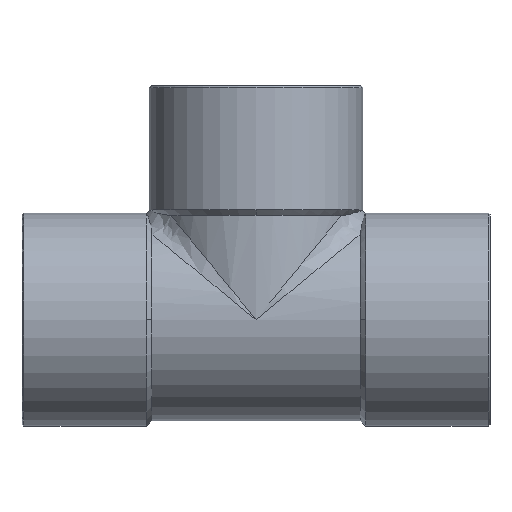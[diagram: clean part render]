
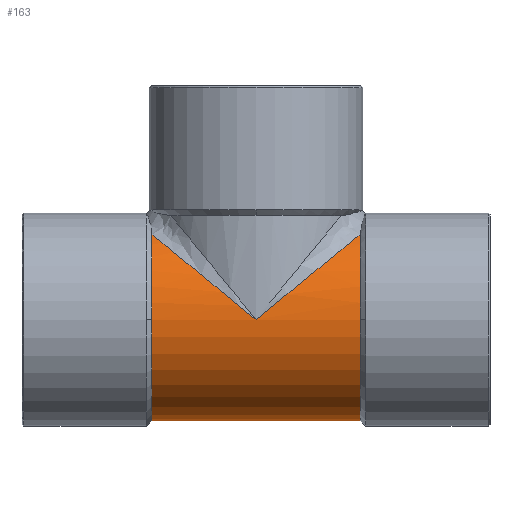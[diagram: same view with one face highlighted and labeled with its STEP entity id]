
A CAD part, top view. The second image highlights one B-rep face of the part: STEP entity #163.
In plain terms, the highlighted cylindrical face has radius 27 mm (diameter 54 mm), a partial arc.
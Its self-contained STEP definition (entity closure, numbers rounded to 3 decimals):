
#77=CARTESIAN_POINT('',(27.8,0.,27.));
#78=VERTEX_POINT('',#77);
#85=CARTESIAN_POINT('',(27.8,-27.,0.));
#86=VERTEX_POINT('',#85);
#87=CARTESIAN_POINT('',(27.8,0.,0.0));
#88=DIRECTION('',(-1.0,0.0,0.0));
#89=DIRECTION('',(0.0,1.0,0.0));
#90=AXIS2_PLACEMENT_3D('',#87,#88,#89);
#91=CIRCLE('',#90,27.);
#92=EDGE_CURVE('',#86,#78,#91,.T.);
#104=CARTESIAN_POINT('',(0.0,0.,0.0));
#105=DIRECTION('',(1.0,0.,0.0));
#106=DIRECTION('',(0.0,1.0,0.0));
#107=AXIS2_PLACEMENT_3D('',#104,#105,#106);
#108=CYLINDRICAL_SURFACE('',#107,27.);
#109=CARTESIAN_POINT('',(-27.8,-27.,0.));
#110=VERTEX_POINT('',#109);
#111=CARTESIAN_POINT('',(27.8,-27.,0.));
#112=DIRECTION('',(-1.0,0.0,0.0));
#113=VECTOR('',#112,55.6);
#114=LINE('',#111,#113);
#115=EDGE_CURVE('',#86,#110,#114,.T.);
#116=ORIENTED_EDGE('',*,*,#115,.F.);
#117=ORIENTED_EDGE('',*,*,#92,.T.);
#118=CARTESIAN_POINT('',(27.8,22.745,14.548));
#119=VERTEX_POINT('',#118);
#120=CARTESIAN_POINT('',(27.8,0.,0.0));
#121=DIRECTION('',(-1.0,0.0,0.0));
#122=DIRECTION('',(0.0,1.0,0.0));
#123=AXIS2_PLACEMENT_3D('',#120,#121,#122);
#124=CIRCLE('',#123,27.);
#125=EDGE_CURVE('',#78,#119,#124,.T.);
#126=ORIENTED_EDGE('',*,*,#125,.T.);
#127=CARTESIAN_POINT('',(0.,0.,27.));
#128=VERTEX_POINT('',#127);
#129=CARTESIAN_POINT('',(0.0,0.,0.0));
#130=DIRECTION('',(-0.633,0.774,0.));
#131=DIRECTION('',(0.774,0.633,0.0));
#132=AXIS2_PLACEMENT_3D('',#129,#130,#131);
#133=ELLIPSE('',#132,42.638,27.);
#134=EDGE_CURVE('',#128,#119,#133,.T.);
#135=ORIENTED_EDGE('',*,*,#134,.F.);
#136=CARTESIAN_POINT('',(-27.8,22.745,14.548));
#137=VERTEX_POINT('',#136);
#138=CARTESIAN_POINT('',(0.0,0.,0.0));
#139=DIRECTION('',(0.633,0.774,0.));
#140=DIRECTION('',(-0.774,0.633,0.0));
#141=AXIS2_PLACEMENT_3D('',#138,#139,#140);
#142=ELLIPSE('',#141,42.638,27.0);
#143=EDGE_CURVE('',#137,#128,#142,.T.);
#144=ORIENTED_EDGE('',*,*,#143,.F.);
#145=CARTESIAN_POINT('',(-27.8,0.,27.));
#146=VERTEX_POINT('',#145);
#147=CARTESIAN_POINT('',(-27.8,0.,0.0));
#148=DIRECTION('',(1.0,0.0,0.0));
#149=DIRECTION('',(0.0,1.0,0.0));
#150=AXIS2_PLACEMENT_3D('',#147,#148,#149);
#151=CIRCLE('',#150,27.);
#152=EDGE_CURVE('',#137,#146,#151,.T.);
#153=ORIENTED_EDGE('',*,*,#152,.T.);
#154=CARTESIAN_POINT('',(-27.8,0.,0.0));
#155=DIRECTION('',(1.0,0.0,0.0));
#156=DIRECTION('',(0.0,1.0,0.0));
#157=AXIS2_PLACEMENT_3D('',#154,#155,#156);
#158=CIRCLE('',#157,27.);
#159=EDGE_CURVE('',#146,#110,#158,.T.);
#160=ORIENTED_EDGE('',*,*,#159,.T.);
#161=EDGE_LOOP('',(#116,#117,#126,#135,#144,#153,#160));
#162=FACE_OUTER_BOUND('',#161,.T.);
#163=ADVANCED_FACE('',(#162),#108,.T.);
